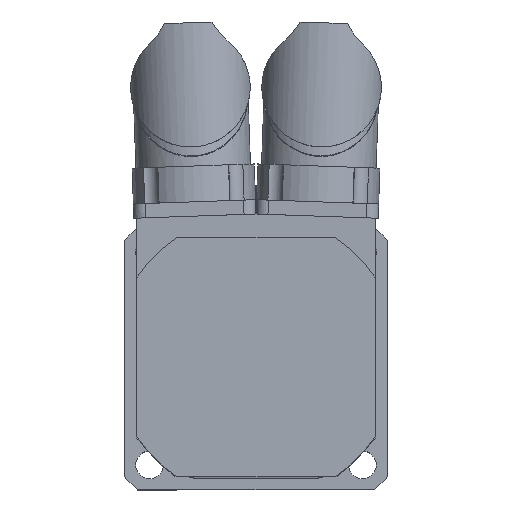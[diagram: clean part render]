
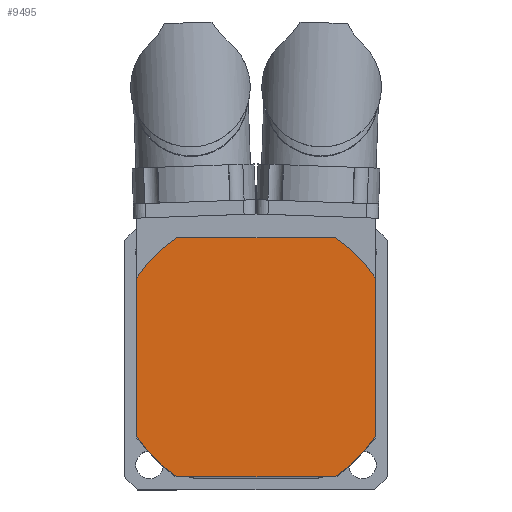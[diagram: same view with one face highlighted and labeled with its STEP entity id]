
A CAD part, top view. The second image highlights one B-rep face of the part: STEP entity #9495.
In plain terms, the highlighted planar face has unit normal (0, 0, 1).
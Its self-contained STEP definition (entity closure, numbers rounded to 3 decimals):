
#9315=CARTESIAN_POINT('',(16.583,25.0,4.5));
#9316=VERTEX_POINT('',#9315);
#9317=CARTESIAN_POINT('',(25.0,16.583,4.5));
#9318=VERTEX_POINT('',#9317);
#9319=CARTESIAN_POINT('',(0.0,0.0,4.5));
#9320=DIRECTION('',(0.0,0.0,-1.0));
#9321=DIRECTION('',(-0.833,-0.553,0.0));
#9322=AXIS2_PLACEMENT_3D('',#9319,#9320,#9321);
#9323=CIRCLE('',#9322,30.0);
#9324=EDGE_CURVE('',#9316,#9318,#9323,.T.);
#9347=CARTESIAN_POINT('',(25.,-16.583,4.5));
#9348=VERTEX_POINT('',#9347);
#9349=CARTESIAN_POINT('',(16.583,-25.0,4.5));
#9350=VERTEX_POINT('',#9349);
#9351=CARTESIAN_POINT('',(0.0,0.0,4.5));
#9352=DIRECTION('',(0.0,0.0,-1.0));
#9353=DIRECTION('',(-0.553,0.833,0.0));
#9354=AXIS2_PLACEMENT_3D('',#9351,#9352,#9353);
#9355=CIRCLE('',#9354,30.0);
#9356=EDGE_CURVE('',#9348,#9350,#9355,.T.);
#9381=CARTESIAN_POINT('',(-16.583,-25.0,4.5));
#9382=VERTEX_POINT('',#9381);
#9383=CARTESIAN_POINT('',(-25.0,-16.583,4.5));
#9384=VERTEX_POINT('',#9383);
#9385=CARTESIAN_POINT('',(0.0,0.0,4.5));
#9386=DIRECTION('',(0.0,0.0,-1.0));
#9387=DIRECTION('',(0.833,0.553,0.0));
#9388=AXIS2_PLACEMENT_3D('',#9385,#9386,#9387);
#9389=CIRCLE('',#9388,30.0);
#9390=EDGE_CURVE('',#9382,#9384,#9389,.T.);
#9421=CARTESIAN_POINT('',(-25.,16.583,4.5));
#9422=VERTEX_POINT('',#9421);
#9423=CARTESIAN_POINT('',(-16.583,25.0,4.5));
#9424=VERTEX_POINT('',#9423);
#9425=CARTESIAN_POINT('',(0.0,0.0,4.5));
#9426=DIRECTION('',(0.0,0.0,-1.0));
#9427=DIRECTION('',(0.553,-0.833,0.0));
#9428=AXIS2_PLACEMENT_3D('',#9425,#9426,#9427);
#9429=CIRCLE('',#9428,30.);
#9430=EDGE_CURVE('',#9422,#9424,#9429,.T.);
#9453=CARTESIAN_POINT('',(-16.583,25.0,4.5));
#9454=DIRECTION('',(1.0,0.0,0.0));
#9455=VECTOR('',#9454,33.166);
#9456=LINE('',#9453,#9455);
#9457=EDGE_CURVE('',#9424,#9316,#9456,.T.);
#9465=CARTESIAN_POINT('',(-27.5,-27.5,4.5));
#9466=DIRECTION('',(0.0,0.0,1.0));
#9467=DIRECTION('',(1.0,0.0,0.0));
#9468=AXIS2_PLACEMENT_3D('',#9465,#9466,#9467);
#9469=PLANE('',#9468);
#9470=ORIENTED_EDGE('',*,*,#9324,.F.);
#9471=ORIENTED_EDGE('',*,*,#9457,.F.);
#9472=ORIENTED_EDGE('',*,*,#9430,.F.);
#9473=CARTESIAN_POINT('',(-25.0,-16.583,4.5));
#9474=DIRECTION('',(0.0,1.0,0.0));
#9475=VECTOR('',#9474,33.166);
#9476=LINE('',#9473,#9475);
#9477=EDGE_CURVE('',#9384,#9422,#9476,.T.);
#9478=ORIENTED_EDGE('',*,*,#9477,.F.);
#9479=ORIENTED_EDGE('',*,*,#9390,.F.);
#9480=CARTESIAN_POINT('',(16.583,-25.0,4.5));
#9481=DIRECTION('',(-1.0,0.0,0.0));
#9482=VECTOR('',#9481,33.166);
#9483=LINE('',#9480,#9482);
#9484=EDGE_CURVE('',#9350,#9382,#9483,.T.);
#9485=ORIENTED_EDGE('',*,*,#9484,.F.);
#9486=ORIENTED_EDGE('',*,*,#9356,.F.);
#9487=CARTESIAN_POINT('',(25.0,16.583,4.5));
#9488=DIRECTION('',(0.0,-1.0,0.0));
#9489=VECTOR('',#9488,33.166);
#9490=LINE('',#9487,#9489);
#9491=EDGE_CURVE('',#9318,#9348,#9490,.T.);
#9492=ORIENTED_EDGE('',*,*,#9491,.F.);
#9493=EDGE_LOOP('',(#9470,#9471,#9472,#9478,#9479,#9485,#9486,#9492));
#9494=FACE_OUTER_BOUND('',#9493,.T.);
#9495=ADVANCED_FACE('',(#9494),#9469,.T.);
